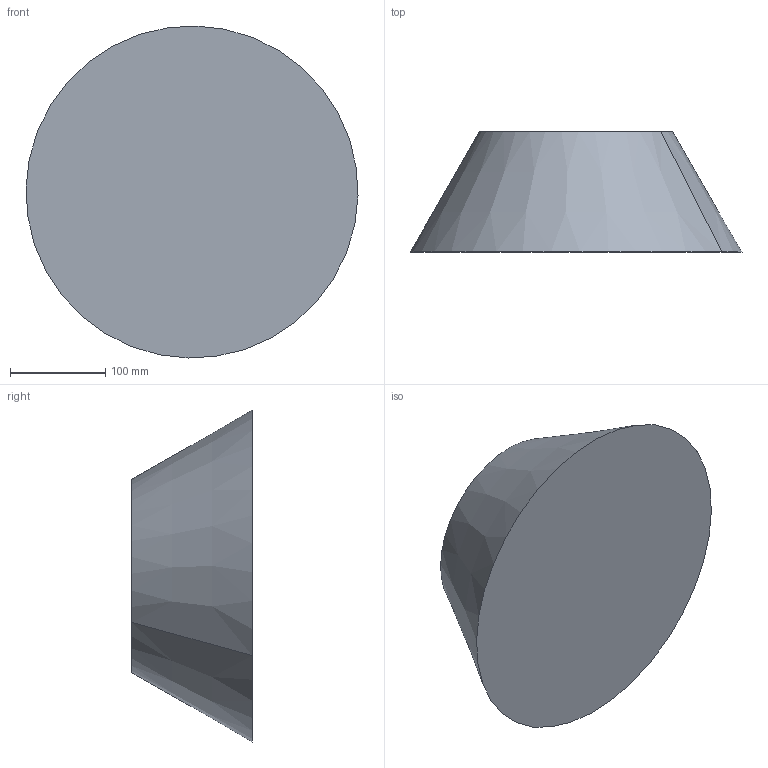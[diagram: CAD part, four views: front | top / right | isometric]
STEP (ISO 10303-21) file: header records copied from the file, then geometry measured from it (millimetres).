
FILE_DESCRIPTION(('CATIA V5 STEP Exchange'),'2;1');
FILE_NAME('C:\_Andres\UNIVERSIDAD\IQS\ASIGNATURAS\DAO\EXF\EXF-16172c\2inicio\Rabat_Riba_Ej09_v26.stp','2017-03-05T22:13:14+00:00',('none'),('none'),'CATIA Version 5-6 Release 2014 SP1 HF18','CATIA V5 STEP AP203','none');
FILE_SCHEMA(('CONFIG_CONTROL_DESIGN'));
Length unit declared in the file: millimetre
Products named in the file (1): Rabat_Riba_Ej09_v26
Bounding box: 347.9 x 126 x 347.9 mm (x, y, z)
Volume: 7664398.3 mm3; surface area: 255335 mm2
Topology: 1 solids, 2 shells, 8 faces, 12 edges, 8 vertices
Faces by surface type: plane 4, cone 2, cylinder 2
Entity records: 205 total; most frequent: CARTESIAN_POINT 27, DIRECTION 24, ORIENTED_EDGE 24, AXIS2_PLACEMENT_3D 15, EDGE_CURVE 12, ADVANCED_FACE 8, CIRCLE 8, EDGE_LOOP 8
